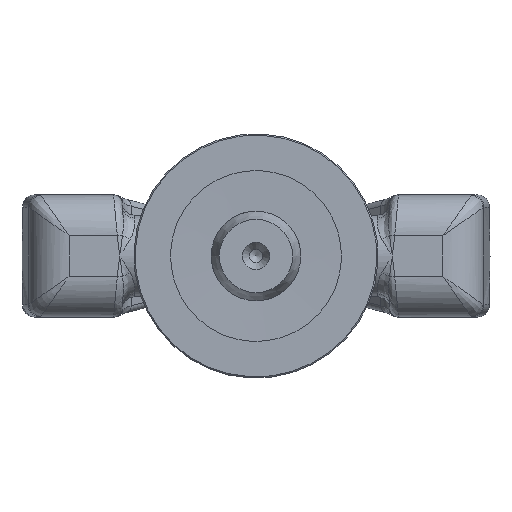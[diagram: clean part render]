
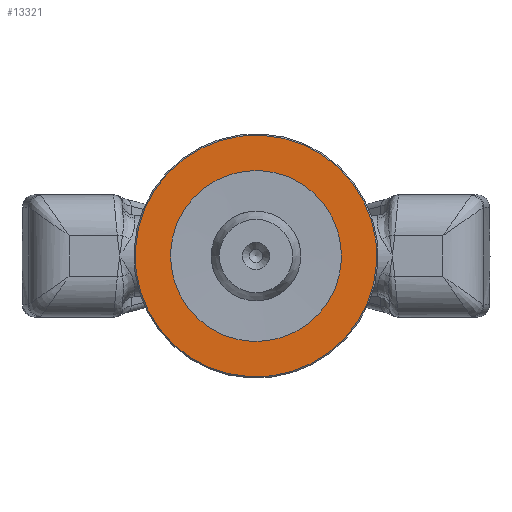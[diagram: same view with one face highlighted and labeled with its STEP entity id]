
A CAD part, front view. The second image highlights one B-rep face of the part: STEP entity #13321.
In plain terms, the highlighted planar face has unit normal (0, -1, 0) as drawn and (0, 0, -1) by its records, which use the part's own axes.
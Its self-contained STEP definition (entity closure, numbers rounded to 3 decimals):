
#256=FACE_BOUND('',#3989,.T.);
#532=PLANE('',#14311);
#3158=FACE_OUTER_BOUND('',#3988,.T.);
#3988=EDGE_LOOP('',(#11296));
#3989=EDGE_LOOP('',(#11297));
#4532=CIRCLE('',#14308,29.7);
#4534=CIRCLE('',#14312,21.);
#6188=VERTEX_POINT('',#41483);
#6190=VERTEX_POINT('',#41489);
#7978=EDGE_CURVE('',#6188,#6188,#4532,.T.);
#7980=EDGE_CURVE('',#6190,#6190,#4534,.T.);
#11296=ORIENTED_EDGE('',*,*,#7978,.F.);
#11297=ORIENTED_EDGE('',*,*,#7980,.F.);
#13321=ADVANCED_FACE('',(#3158,#256),#532,.F.);
#14308=AXIS2_PLACEMENT_3D('',#41484,#16364,#16365);
#14311=AXIS2_PLACEMENT_3D('',#41488,#16370,#16371);
#14312=AXIS2_PLACEMENT_3D('',#41490,#16372,#16373);
#16364=DIRECTION('center_axis',(0.,0.,1.));
#16365=DIRECTION('ref_axis',(-1.,0.,0.));
#16370=DIRECTION('center_axis',(0.,0.,1.));
#16371=DIRECTION('ref_axis',(1.,0.,0.));
#16372=DIRECTION('center_axis',(0.,0.,-1.));
#16373=DIRECTION('ref_axis',(-1.,0.,0.));
#41483=CARTESIAN_POINT('',(29.7,0.,0.));
#41484=CARTESIAN_POINT('Origin',(0.,0.,0.));
#41488=CARTESIAN_POINT('Origin',(0.,0.,0.));
#41489=CARTESIAN_POINT('',(21.,0.,0.));
#41490=CARTESIAN_POINT('Origin',(0.,0.,0.));
